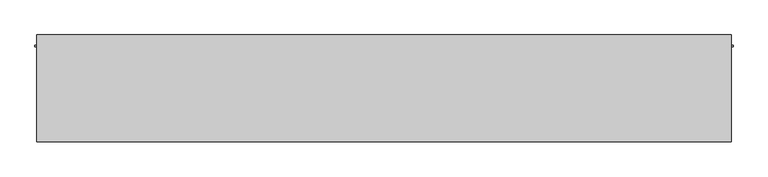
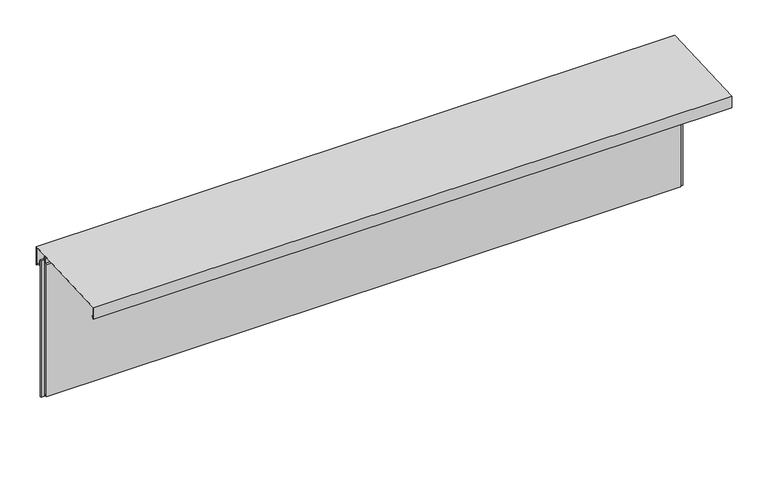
"""IFC4 building model written with IfcOpenShell, lengths in millimetres: plate geometry, Trimo_Qbiss Screen_Normal Panel-HORIZONTAL : HR - B."""

from ifc_helpers import new_model, si_unit, frame, origin, place, context, project, spatial, polyline, outline, extrude, source, transform, mapped, element, save


def plate_3b69b3cc(model_context):
    return source(origin(), model_context, "Body", "SweptSolid", [
        extrude(outline(polyline([(101.0, 868.0), (77.0, 868.0), (77.0, 868.8), (101.8, 868.8), (101.8, 831.8), (125.3313708, 831.8), (133.2, 823.9313708), (133.2, 822.8), (125.0, 831.0), (101.0, 831.0), (101.0, 868.0)])), frame((-1963.8659129, 0.0, 0.0), z_axis=(1.0, 0.0, 0.0), x_axis=(0.0, 1.0, 0.0)), (0.0, 0.0, 1.0), 3927.7318258),
        extrude(outline(polyline([(134.2, 818.9715729), (134.2, 934.1569759), (-469.2, 905.4165497), (-469.2, 833.1070922), (-457.6367532, 844.670339), (-457.0710678, 844.1046536), (-470.0, 831.1757214), (-470.0, 906.1757214), (135.0, 935.0), (135.0, 817.040202), (123.020101, 829.020101), (123.5857864, 829.5857864), (134.2, 818.9715729)])), frame((-1963.8659129, 0.0, 0.0), z_axis=(1.0, 0.0, 0.0), x_axis=(0.0, 1.0, 0.0)), (0.0, 0.0, 1.0), 3927.7318258),
        extrude(outline(polyline([(-1954.3659129, 76.5978162), (-1954.3659129, 67.8978162), (-1973.3659129, 67.8978162), (-1973.3659129, 76.5978162), (-1954.3659129, 76.5978162)])), frame((0.0, 0.0, -1.0), z_axis=(0.0, 0.0, 1.0), x_axis=(1.0, 0.0, 0.0)), (0.0, 0.0, 1.0), 890.0),
        extrude(outline(polyline([(1954.3659129, 67.8978162), (1954.3659129, 76.5978162), (1973.3659129, 76.5978162), (1973.3659129, 67.8978162), (1954.3659129, 67.8978162)])), frame((0.0, 0.0, -1.0), z_axis=(0.0, 0.0, 1.0), x_axis=(1.0, 0.0, 0.0)), (0.0, 0.0, 1.0), 890.0),
        extrude(outline(polyline([(1951.3659129, 76.0), (1951.3659129, 71.0), (-1951.3659129, 71.0), (-1951.3659129, 76.0), (1951.3659129, 76.0)])), frame((0.0, 0.0, 868.0), z_axis=(0.0, 0.0, 1.0), x_axis=(1.0, 0.0, 0.0)), (0.0, 0.0, 1.0), 21.0),
        extrude(outline(polyline([(71.0, 867.0), (100.0, 867.0), (100.0, 0.0), (72.0, 0.0), (72.0, 15.5), (62.0, 15.5), (62.0, 7.0), (50.0, 7.0), (50.0, 867.0), (63.0, 867.0), (63.0, 904.5), (71.0, 904.5), (71.0, 867.0)])), frame((-1951.3659129, 0.0, 0.0), z_axis=(1.0, 0.0, 0.0), x_axis=(0.0, 1.0, 0.0)), (0.0, 0.0, 1.0), 3902.7318258),
    ])


if __name__ == "__main__":
    model = new_model("IFC4")
    model_context = context("Model", 3, world=origin())
    ifc_project = project(units=[si_unit("LENGTHUNIT", "METRE", prefix="MILLI")], contexts=[model_context])
    site = spatial("IfcSite", under=ifc_project)
    building = spatial("IfcBuilding", under=site)
    placement = place(None, origin())
    plate_shape = plate_3b69b3cc(model_context)
    element("IfcPlate", 1, ObjectType="Trimo_Qbiss Screen_Normal Panel-HORIZONTAL : HR - B", at=placement, inside=building, context=model_context, shape_type="MappedRepresentation", body=[
        mapped(plate_shape, transform((0.0, 0.0, 0.0), x_axis=(1.0, 0.0, 0.0), y_axis=(0.0, 1.0, 0.0), z_axis=(0.0, 0.0, 1.0))),
    ])
    save(model, "model.ifc")
